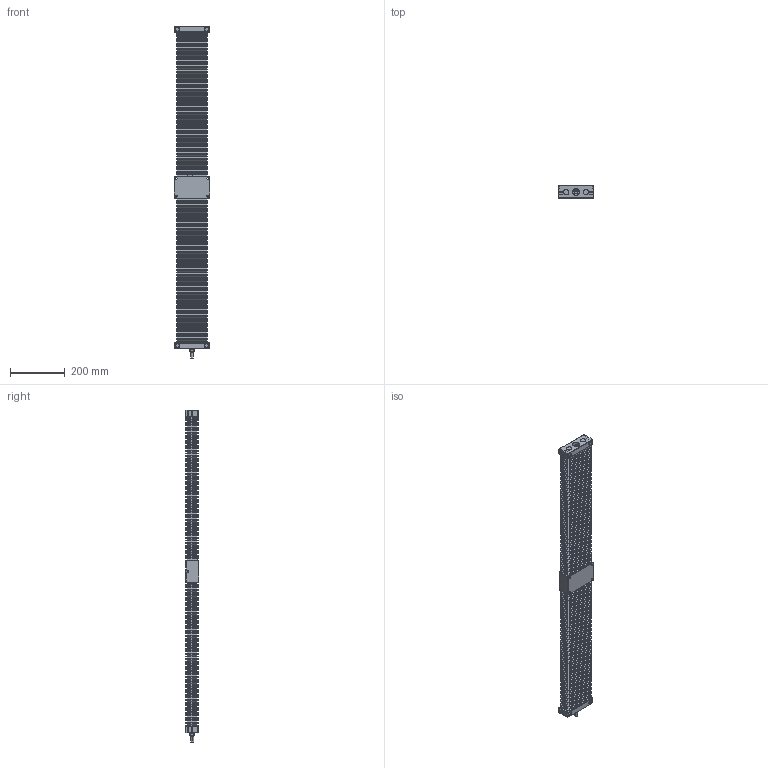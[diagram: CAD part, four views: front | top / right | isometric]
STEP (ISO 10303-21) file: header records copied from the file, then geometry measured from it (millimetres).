
FILE_DESCRIPTION (( 'STEP AP214' ), '1' );
FILE_NAME ('TKC2010B-700H0C-Ä£×é.step', '2025-08-25T08:40:16', ( '' ), ( '' ), 'SwSTEP 2.0', 'SolidWorks 2024', '' );
FILE_SCHEMA (( 'AUTOMOTIVE_DESIGN' ));
Length unit declared in the file: millimetre
Products named in the file (4): TKC20-700-03; TKC2010B-700H0C-模组; TKC20-02; TKC20-700-01
Assembly tree (4 placements, depth 2):
  TKC2010B-700H0C-模组
    TKC20-02
    TKC20-700-01
    TKC20-700-03  x2
Bounding box: 130 x 48 x 1213.5 mm (x, y, z)
Volume: 3909590.8 mm3; surface area: 1264010.5 mm2
Topology: 14 solids, 14 shells, 3028 faces, 6607 edges, 3652 vertices
Faces by surface type: plane 2409, cylinder 544, cone 36, torus 28, bspline 11
Entity records: 76324 total; most frequent: CARTESIAN_POINT 34150, ORIENTED_EDGE 8822, DIRECTION 8145, EDGE_CURVE 4411, VECTOR 3233, LINE 3233, VERTEX_POINT 2560, AXIS2_PLACEMENT_3D 2456
